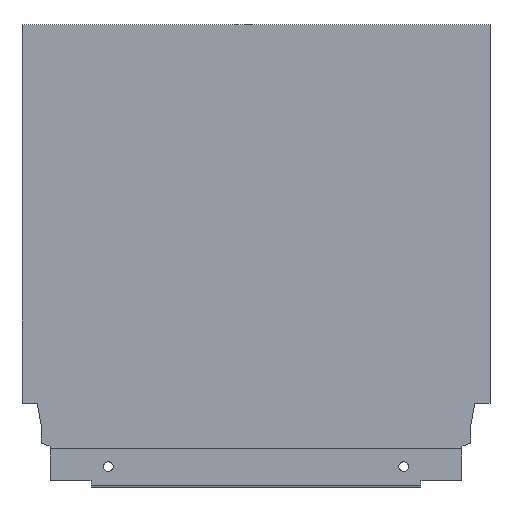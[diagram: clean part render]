
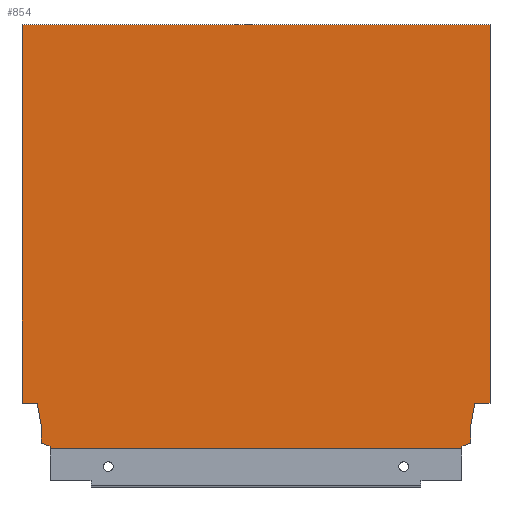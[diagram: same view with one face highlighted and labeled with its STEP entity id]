
A CAD part, top view. The second image highlights one B-rep face of the part: STEP entity #854.
In plain terms, the highlighted planar face has unit normal (0, 0, 1).
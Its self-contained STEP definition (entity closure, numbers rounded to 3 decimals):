
#1 = EDGE_CURVE ( 'NONE', #233, #456, #1233, .T. ) ;
#2 = EDGE_CURVE ( 'NONE', #572, #763, #1175, .T. ) ;
#6 = EDGE_CURVE ( 'NONE', #456, #542, #1258, .T. ) ;
#13 = EDGE_CURVE ( 'NONE', #711, #229, #1335, .T. ) ;
#46 = EDGE_CURVE ( 'NONE', #453, #572, #1245, .T. ) ;
#48 = EDGE_CURVE ( 'NONE', #763, #452, #1286, .T. ) ;
#50 = EDGE_CURVE ( 'NONE', #452, #233, #1283, .T. ) ;
#68 = EDGE_CURVE ( 'NONE', #453, #229, #1319, .T. ) ;
#102 = EDGE_CURVE ( 'NONE', #204, #784, #1379, .T. ) ;
#116 = EDGE_CURVE ( 'NONE', #275, #463, #1448, .T. ) ;
#117 = EDGE_CURVE ( 'NONE', #275, #830, #1406, .T. ) ;
#118 = EDGE_CURVE ( 'NONE', #784, #711, #1382, .T. ) ;
#121 = EDGE_CURVE ( 'NONE', #463, #204, #996, .T. ) ;
#130 = EDGE_CURVE ( 'NONE', #542, #830, #1468, .T. ) ;
#142 = AXIS2_PLACEMENT_3D ( 'NONE', #608, #616, #617 ) ;
#204 = VERTEX_POINT ( 'NONE', #530 ) ;
#207 = DIRECTION ( 'NONE',  ( -0.174, -0.985, 0. ) ) ;
#208 = CARTESIAN_POINT ( 'NONE',  ( -7.06, 21.2, 7.5 ) ) ;
#210 = CARTESIAN_POINT ( 'NONE',  ( -209.94, 21.2, 7.5 ) ) ;
#212 = DIRECTION ( 'NONE',  ( -1., 0., 0. ) ) ;
#213 = CARTESIAN_POINT ( 'NONE',  ( 0., 21.2, 7.5 ) ) ;
#214 = DIRECTION ( 'NONE',  ( -0.174, 0.985, 0. ) ) ;
#220 = DIRECTION ( 'NONE',  ( 1., 0., 0. ) ) ;
#221 = CARTESIAN_POINT ( 'NONE',  ( -208.1, 2.64, 7.5 ) ) ;
#222 = CARTESIAN_POINT ( 'NONE',  ( -217., 196.7, 7.5 ) ) ;
#223 = DIRECTION ( 'NONE',  ( -0.94, 0.342, 0. ) ) ;
#229 = VERTEX_POINT ( 'NONE', #517 ) ;
#233 = VERTEX_POINT ( 'NONE', #523 ) ;
#256 = CARTESIAN_POINT ( 'NONE',  ( -217., 0., 7.5 ) ) ;
#275 = VERTEX_POINT ( 'NONE', #548 ) ;
#301 = DIRECTION ( 'NONE',  ( 0., 1., 0. ) ) ;
#304 = DIRECTION ( 'NONE',  ( 0., -1., 0. ) ) ;
#320 = CARTESIAN_POINT ( 'NONE',  ( -217., 0., 7.5 ) ) ;
#322 = CARTESIAN_POINT ( 'NONE',  ( -13.004, 0., 7.5 ) ) ;
#406 = DIRECTION ( 'NONE',  ( -1., 0., 0. ) ) ;
#411 = CARTESIAN_POINT ( 'NONE',  ( -222., 21.2, 7.5 ) ) ;
#432 = DIRECTION ( 'NONE',  ( -0.94, -0.342, 0. ) ) ;
#436 = CARTESIAN_POINT ( 'NONE',  ( -8.9, 2.64, 7.5 ) ) ;
#448 = CARTESIAN_POINT ( 'NONE',  ( -208.1, 10.765, 7.5 ) ) ;
#450 = DIRECTION ( 'NONE',  ( 0., -1., 0. ) ) ;
#452 = VERTEX_POINT ( 'NONE', #466 ) ;
#453 = VERTEX_POINT ( 'NONE', #468 ) ;
#456 = VERTEX_POINT ( 'NONE', #531 ) ;
#458 = DIRECTION ( 'NONE',  ( 0., 1., 0. ) ) ;
#463 = VERTEX_POINT ( 'NONE', #513 ) ;
#465 = CARTESIAN_POINT ( 'NONE',  ( -203.996, 1.146, 7.5 ) ) ;
#466 = CARTESIAN_POINT ( 'NONE',  ( -7.06, 21.2, 7.5 ) ) ;
#468 = CARTESIAN_POINT ( 'NONE',  ( -217., 196.7, 7.5 ) ) ;
#485 = CARTESIAN_POINT ( 'NONE',  ( 0., 21.2, 7.5 ) ) ;
#488 = CARTESIAN_POINT ( 'NONE',  ( -209.94, 21.2, 7.5 ) ) ;
#495 = CARTESIAN_POINT ( 'NONE',  ( 0., 196.7, 7.5 ) ) ;
#510 = CARTESIAN_POINT ( 'NONE',  ( -13.004, 1.146, 7.5 ) ) ;
#513 = CARTESIAN_POINT ( 'NONE',  ( -203.996, 1.146, 7.5 ) ) ;
#517 = CARTESIAN_POINT ( 'NONE',  ( -217., 21.2, 7.5 ) ) ;
#523 = CARTESIAN_POINT ( 'NONE',  ( -8.9, 10.765, 7.5 ) ) ;
#530 = CARTESIAN_POINT ( 'NONE',  ( -208.1, 2.64, 7.5 ) ) ;
#531 = CARTESIAN_POINT ( 'NONE',  ( -8.9, 2.64, 7.5 ) ) ;
#542 = VERTEX_POINT ( 'NONE', #510 ) ;
#548 = CARTESIAN_POINT ( 'NONE',  ( -203.996, 0., 7.5 ) ) ;
#572 = VERTEX_POINT ( 'NONE', #495 ) ;
#575 = CARTESIAN_POINT ( 'NONE',  ( -13.004, 1.146, 7.5 ) ) ;
#608 = CARTESIAN_POINT ( 'NONE',  ( -217., 0., 7.5 ) ) ;
#609 = PLANE ( 'NONE',  #142 ) ;
#616 = DIRECTION ( 'NONE',  ( 0., 0., 1. ) ) ;
#617 = DIRECTION ( 'NONE',  ( 1., 0., 0. ) ) ;
#622 = DIRECTION ( 'NONE',  ( 0., -1., 0. ) ) ;
#691 = CARTESIAN_POINT ( 'NONE',  ( -208.1, 10.765, 7.5 ) ) ;
#711 = VERTEX_POINT ( 'NONE', #488 ) ;
#713 = DIRECTION ( 'NONE',  ( 1., 0., 0. ) ) ;
#763 = VERTEX_POINT ( 'NONE', #485 ) ;
#784 = VERTEX_POINT ( 'NONE', #691 ) ;
#829 = CARTESIAN_POINT ( 'NONE',  ( 0., 0., 7.5 ) ) ;
#830 = VERTEX_POINT ( 'NONE', #322 ) ;
#831 = CARTESIAN_POINT ( 'NONE',  ( -8.9, 10.765, 7.5 ) ) ;
#832 = DIRECTION ( 'NONE',  ( 0., -1., 0. ) ) ;
#854 = ADVANCED_FACE ( 'NONE', ( #1346 ), #609, .T. ) ;
#870 = ORIENTED_EDGE ( 'NONE', *, *, #50, .F. ) ;
#871 = ORIENTED_EDGE ( 'NONE', *, *, #130, .F. ) ;
#874 = ORIENTED_EDGE ( 'NONE', *, *, #48, .F. ) ;
#911 = ORIENTED_EDGE ( 'NONE', *, *, #13, .F. ) ;
#927 = ORIENTED_EDGE ( 'NONE', *, *, #68, .T. ) ;
#939 = ORIENTED_EDGE ( 'NONE', *, *, #102, .F. ) ;
#943 = ORIENTED_EDGE ( 'NONE', *, *, #118, .F. ) ;
#944 = ORIENTED_EDGE ( 'NONE', *, *, #1, .F. ) ;
#960 = ORIENTED_EDGE ( 'NONE', *, *, #121, .F. ) ;
#972 = ORIENTED_EDGE ( 'NONE', *, *, #46, .F. ) ;
#973 = ORIENTED_EDGE ( 'NONE', *, *, #2, .F. ) ;
#975 = VECTOR ( 'NONE', #214, 1000. ) ;
#996 = LINE ( 'NONE', #221, #1378 ) ;
#997 = ORIENTED_EDGE ( 'NONE', *, *, #6, .F. ) ;
#999 = VECTOR ( 'NONE', #304, 1000. ) ;
#1003 = VECTOR ( 'NONE', #713, 1000. ) ;
#1092 = EDGE_LOOP ( 'NONE', ( #927, #911, #943, #939, #960, #1292, #1136, #871, #997, #944, #870, #874, #973, #972 ) ) ;
#1101 = VECTOR ( 'NONE', #450, 1000. ) ;
#1102 = VECTOR ( 'NONE', #832, 1000. ) ;
#1136 = ORIENTED_EDGE ( 'NONE', *, *, #117, .T. ) ;
#1175 = LINE ( 'NONE', #829, #1102 ) ;
#1210 = VECTOR ( 'NONE', #406, 1000. ) ;
#1233 = LINE ( 'NONE', #831, #1101 ) ;
#1242 = VECTOR ( 'NONE', #212, 1000. ) ;
#1245 = LINE ( 'NONE', #222, #1297 ) ;
#1254 = VECTOR ( 'NONE', #301, 1000. ) ;
#1258 = LINE ( 'NONE', #436, #1288 ) ;
#1283 = LINE ( 'NONE', #208, #1285 ) ;
#1285 = VECTOR ( 'NONE', #207, 1000. ) ;
#1286 = LINE ( 'NONE', #213, #1242 ) ;
#1288 = VECTOR ( 'NONE', #432, 1000. ) ;
#1292 = ORIENTED_EDGE ( 'NONE', *, *, #116, .F. ) ;
#1297 = VECTOR ( 'NONE', #220, 1000. ) ;
#1319 = LINE ( 'NONE', #320, #999 ) ;
#1335 = LINE ( 'NONE', #411, #1210 ) ;
#1346 = FACE_OUTER_BOUND ( 'NONE', #1092, .T. ) ;
#1378 = VECTOR ( 'NONE', #223, 1000. ) ;
#1379 = LINE ( 'NONE', #448, #1433 ) ;
#1382 = LINE ( 'NONE', #210, #975 ) ;
#1406 = LINE ( 'NONE', #256, #1003 ) ;
#1433 = VECTOR ( 'NONE', #458, 1000. ) ;
#1448 = LINE ( 'NONE', #465, #1254 ) ;
#1467 = VECTOR ( 'NONE', #622, 1000. ) ;
#1468 = LINE ( 'NONE', #575, #1467 ) ;
